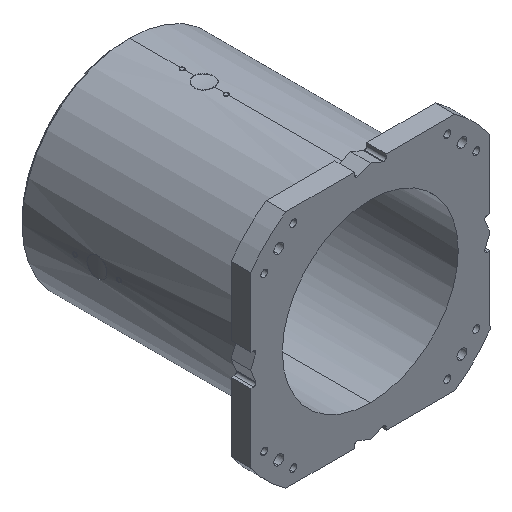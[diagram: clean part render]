
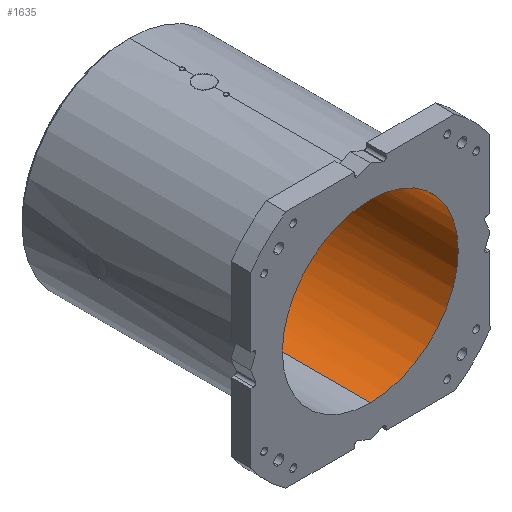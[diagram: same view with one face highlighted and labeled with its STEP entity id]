
A CAD part, isometric view. The second image highlights one B-rep face of the part: STEP entity #1635.
In plain terms, the highlighted cylindrical face has radius 180 mm (diameter 360 mm), a partial arc.
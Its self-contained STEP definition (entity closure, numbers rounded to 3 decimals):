
#18 = CIRCLE ( 'NONE', #2772, 180. ) ;
#28 = DIRECTION ( 'NONE',  ( 0., -1., 0. ) ) ;
#425 = DIRECTION ( 'NONE',  ( 0., -1., 0. ) ) ;
#450 = DIRECTION ( 'NONE',  ( 0., -1., 0. ) ) ;
#600 = AXIS2_PLACEMENT_3D ( 'NONE', #9204, #5502, #5366 ) ;
#690 = EDGE_LOOP ( 'NONE', ( #876, #2839, #7449, #7255, #8588, #8962, #6994, #4682 ) ) ;
#747 = EDGE_CURVE ( 'NONE', #4150, #5733, #4130, .T. ) ;
#769 = CARTESIAN_POINT ( 'NONE',  ( 0., 463., 180. ) ) ;
#772 = DIRECTION ( 'NONE',  ( 0., 0., -1. ) ) ;
#876 = ORIENTED_EDGE ( 'NONE', *, *, #5291, .F. ) ;
#1033 = EDGE_CURVE ( 'NONE', #1789, #5267, #1683, .T. ) ;
#1045 = CARTESIAN_POINT ( 'NONE',  ( 123.123, 463., -131.304 ) ) ;
#1256 = AXIS2_PLACEMENT_3D ( 'NONE', #8193, #28, #2995 ) ;
#1635 = ADVANCED_FACE ( 'NONE', ( #5606 ), #9207, .F. ) ;
#1683 = CIRCLE ( 'NONE', #3824, 180. ) ;
#1789 = VERTEX_POINT ( 'NONE', #3111 ) ;
#1811 = LINE ( 'NONE', #3263, #9233 ) ;
#2027 = CARTESIAN_POINT ( 'NONE',  ( 0., 0., 0. ) ) ;
#2527 = DIRECTION ( 'NONE',  ( 0., 0., -1. ) ) ;
#2772 = AXIS2_PLACEMENT_3D ( 'NONE', #2027, #450, #4976 ) ;
#2839 = ORIENTED_EDGE ( 'NONE', *, *, #747, .F. ) ;
#2995 = DIRECTION ( 'NONE',  ( 0., 0., -1. ) ) ;
#3111 = CARTESIAN_POINT ( 'NONE',  ( 0., 463., -180. ) ) ;
#3263 = CARTESIAN_POINT ( 'NONE',  ( 0., 0., -180. ) ) ;
#3383 = VERTEX_POINT ( 'NONE', #8597 ) ;
#3403 = AXIS2_PLACEMENT_3D ( 'NONE', #5601, #9253, #8007 ) ;
#3486 = VERTEX_POINT ( 'NONE', #4650 ) ;
#3824 = AXIS2_PLACEMENT_3D ( 'NONE', #8794, #5010, #772 ) ;
#3825 = EDGE_CURVE ( 'NONE', #6062, #3383, #18, .T. ) ;
#3981 = LINE ( 'NONE', #8353, #8628 ) ;
#4099 = CARTESIAN_POINT ( 'NONE',  ( 0., 463., 0. ) ) ;
#4130 = CIRCLE ( 'NONE', #600, 180. ) ;
#4150 = VERTEX_POINT ( 'NONE', #5858 ) ;
#4476 = CIRCLE ( 'NONE', #1256, 180. ) ;
#4484 = CIRCLE ( 'NONE', #4639, 180. ) ;
#4490 = EDGE_CURVE ( 'NONE', #7042, #3486, #4484, .T. ) ;
#4581 = CARTESIAN_POINT ( 'NONE',  ( 131.304, 463., -123.123 ) ) ;
#4639 = AXIS2_PLACEMENT_3D ( 'NONE', #4099, #6948, #4928 ) ;
#4650 = CARTESIAN_POINT ( 'NONE',  ( 131.304, 463., 123.123 ) ) ;
#4682 = ORIENTED_EDGE ( 'NONE', *, *, #3825, .T. ) ;
#4748 = DIRECTION ( 'NONE',  ( 0., -1., 0. ) ) ;
#4752 = DIRECTION ( 'NONE',  ( 0., -1., 0. ) ) ;
#4928 = DIRECTION ( 'NONE',  ( 0., 0., -1. ) ) ;
#4976 = DIRECTION ( 'NONE',  ( 0., 0., -1. ) ) ;
#5010 = DIRECTION ( 'NONE',  ( 0., -1., 0. ) ) ;
#5267 = VERTEX_POINT ( 'NONE', #1045 ) ;
#5291 = EDGE_CURVE ( 'NONE', #5733, #3383, #3981, .T. ) ;
#5366 = DIRECTION ( 'NONE',  ( 0., 0., -1. ) ) ;
#5502 = DIRECTION ( 'NONE',  ( 0., -1., 0. ) ) ;
#5601 = CARTESIAN_POINT ( 'NONE',  ( 0., 463., 0. ) ) ;
#5604 = EDGE_CURVE ( 'NONE', #3486, #4150, #8010, .T. ) ;
#5606 = FACE_OUTER_BOUND ( 'NONE', #690, .T. ) ;
#5733 = VERTEX_POINT ( 'NONE', #769 ) ;
#5858 = CARTESIAN_POINT ( 'NONE',  ( 123.123, 463., 131.304 ) ) ;
#6062 = VERTEX_POINT ( 'NONE', #7734 ) ;
#6236 = EDGE_CURVE ( 'NONE', #5267, #7042, #4476, .T. ) ;
#6948 = DIRECTION ( 'NONE',  ( 0., -1., 0. ) ) ;
#6994 = ORIENTED_EDGE ( 'NONE', *, *, #8034, .T. ) ;
#7042 = VERTEX_POINT ( 'NONE', #4581 ) ;
#7255 = ORIENTED_EDGE ( 'NONE', *, *, #4490, .F. ) ;
#7449 = ORIENTED_EDGE ( 'NONE', *, *, #5604, .F. ) ;
#7636 = CARTESIAN_POINT ( 'NONE',  ( 0., 0., 0. ) ) ;
#7734 = CARTESIAN_POINT ( 'NONE',  ( 0., 0., -180. ) ) ;
#8007 = DIRECTION ( 'NONE',  ( 0., 0., -1. ) ) ;
#8010 = CIRCLE ( 'NONE', #3403, 180. ) ;
#8034 = EDGE_CURVE ( 'NONE', #1789, #6062, #1811, .T. ) ;
#8125 = AXIS2_PLACEMENT_3D ( 'NONE', #7636, #4748, #2527 ) ;
#8193 = CARTESIAN_POINT ( 'NONE',  ( 0., 463., 0. ) ) ;
#8353 = CARTESIAN_POINT ( 'NONE',  ( 0., 0., 180. ) ) ;
#8588 = ORIENTED_EDGE ( 'NONE', *, *, #6236, .F. ) ;
#8597 = CARTESIAN_POINT ( 'NONE',  ( 0., 0., 180. ) ) ;
#8628 = VECTOR ( 'NONE', #425, 1000. ) ;
#8794 = CARTESIAN_POINT ( 'NONE',  ( 0., 463., 0. ) ) ;
#8962 = ORIENTED_EDGE ( 'NONE', *, *, #1033, .F. ) ;
#9204 = CARTESIAN_POINT ( 'NONE',  ( 0., 463., 0. ) ) ;
#9207 = CYLINDRICAL_SURFACE ( 'NONE', #8125, 180. ) ;
#9233 = VECTOR ( 'NONE', #4752, 1000. ) ;
#9253 = DIRECTION ( 'NONE',  ( 0., -1., 0. ) ) ;
